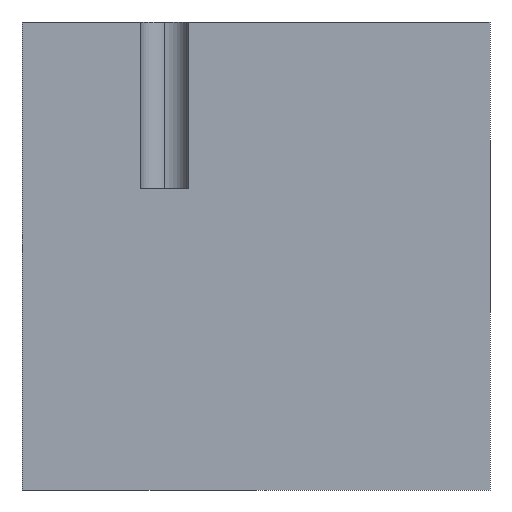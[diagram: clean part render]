
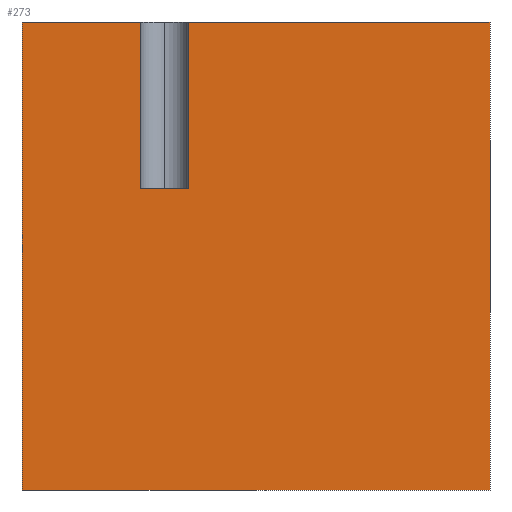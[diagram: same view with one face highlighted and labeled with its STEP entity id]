
A CAD part, left-side view. The second image highlights one B-rep face of the part: STEP entity #273.
In plain terms, the highlighted planar face has unit normal (-1, 0, 0).
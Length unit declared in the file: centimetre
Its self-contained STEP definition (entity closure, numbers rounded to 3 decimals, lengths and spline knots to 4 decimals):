
#14 = DIRECTION ( 'NONE',  ( 0., 0., 1. ) ) ;
#30 = DIRECTION ( 'NONE',  ( 1., 0., 0. ) ) ;
#31 = DIRECTION ( 'NONE',  ( 0., 0., 1. ) ) ;
#32 = DIRECTION ( 'NONE',  ( 0., 0., -1. ) ) ;
#38 = FACE_OUTER_BOUND ( 'NONE', #341, .T. ) ;
#55 = ORIENTED_EDGE ( 'NONE', *, *, #380, .F. ) ;
#57 = VERTEX_POINT ( 'NONE', #155 ) ;
#65 = VECTOR ( 'NONE', #31, 100. ) ;
#78 = CARTESIAN_POINT ( 'NONE',  ( 0., 1000., 1000. ) ) ;
#95 = VERTEX_POINT ( 'NONE', #367 ) ;
#97 = ORIENTED_EDGE ( 'NONE', *, *, #216, .F. ) ;
#101 = VECTOR ( 'NONE', #446, 100. ) ;
#103 = VERTEX_POINT ( 'NONE', #258 ) ;
#108 = VERTEX_POINT ( 'NONE', #215 ) ;
#109 = DIRECTION ( 'NONE',  ( 0., 0., -1. ) ) ;
#119 = LINE ( 'NONE', #355, #505 ) ;
#124 = VECTOR ( 'NONE', #14, 100. ) ;
#127 = DIRECTION ( 'NONE',  ( 0., -1., 0. ) ) ;
#133 = CARTESIAN_POINT ( 'NONE',  ( 0., 746.1739, 643.1808 ) ) ;
#140 = EDGE_CURVE ( 'NONE', #373, #108, #312, .T. ) ;
#149 = VERTEX_POINT ( 'NONE', #425 ) ;
#155 = CARTESIAN_POINT ( 'NONE',  ( 0., 1000., 0. ) ) ;
#156 = EDGE_CURVE ( 'NONE', #108, #149, #282, .T. ) ;
#206 = LINE ( 'NONE', #357, #336 ) ;
#215 = CARTESIAN_POINT ( 'NONE',  ( 0., 643.6475, 1000. ) ) ;
#216 = EDGE_CURVE ( 'NONE', #149, #326, #206, .T. ) ;
#220 = CARTESIAN_POINT ( 'NONE',  ( 0., 1000., 643.1808 ) ) ;
#227 = ORIENTED_EDGE ( 'NONE', *, *, #353, .F. ) ;
#252 = LINE ( 'NONE', #287, #101 ) ;
#258 = CARTESIAN_POINT ( 'NONE',  ( 0., 746.1739, 1000. ) ) ;
#259 = CARTESIAN_POINT ( 'NONE',  ( 0., 643.6475, 643.1808 ) ) ;
#267 = VECTOR ( 'NONE', #290, 100. ) ;
#273 = ADVANCED_FACE ( 'NONE', ( #38 ), #424, .F. ) ;
#282 = LINE ( 'NONE', #440, #427 ) ;
#287 = CARTESIAN_POINT ( 'NONE',  ( 0., 1000., 1000. ) ) ;
#290 = DIRECTION ( 'NONE',  ( 0., -1., 0. ) ) ;
#298 = ORIENTED_EDGE ( 'NONE', *, *, #432, .T. ) ;
#303 = ORIENTED_EDGE ( 'NONE', *, *, #140, .F. ) ;
#312 = LINE ( 'NONE', #403, #65 ) ;
#323 = DIRECTION ( 'NONE',  ( 0., -1., 0. ) ) ;
#326 = VERTEX_POINT ( 'NONE', #398 ) ;
#327 = LINE ( 'NONE', #493, #486 ) ;
#336 = VECTOR ( 'NONE', #109, 100. ) ;
#341 = EDGE_LOOP ( 'NONE', ( #55, #449, #227, #419, #298, #97, #411, #303 ) ) ;
#348 = AXIS2_PLACEMENT_3D ( 'NONE', #437, #30, #32 ) ;
#353 = EDGE_CURVE ( 'NONE', #502, #103, #119, .T. ) ;
#355 = CARTESIAN_POINT ( 'NONE',  ( 0., 1000., 1000. ) ) ;
#357 = CARTESIAN_POINT ( 'NONE',  ( 0., 0., 1000. ) ) ;
#367 = CARTESIAN_POINT ( 'NONE',  ( 0., 746.1739, 643.1808 ) ) ;
#372 = LINE ( 'NONE', #133, #124 ) ;
#373 = VERTEX_POINT ( 'NONE', #259 ) ;
#380 = EDGE_CURVE ( 'NONE', #95, #373, #488, .T. ) ;
#398 = CARTESIAN_POINT ( 'NONE',  ( 0., 0., 0. ) ) ;
#403 = CARTESIAN_POINT ( 'NONE',  ( 0., 643.6475, 643.1808 ) ) ;
#411 = ORIENTED_EDGE ( 'NONE', *, *, #156, .F. ) ;
#419 = ORIENTED_EDGE ( 'NONE', *, *, #447, .T. ) ;
#423 = EDGE_CURVE ( 'NONE', #95, #103, #372, .T. ) ;
#424 = PLANE ( 'NONE',  #348 ) ;
#425 = CARTESIAN_POINT ( 'NONE',  ( 0., 0., 1000. ) ) ;
#427 = VECTOR ( 'NONE', #323, 100. ) ;
#432 = EDGE_CURVE ( 'NONE', #57, #326, #327, .T. ) ;
#437 = CARTESIAN_POINT ( 'NONE',  ( 0., 1000., 1000. ) ) ;
#440 = CARTESIAN_POINT ( 'NONE',  ( 0., 1000., 1000. ) ) ;
#446 = DIRECTION ( 'NONE',  ( 0., 0., -1. ) ) ;
#447 = EDGE_CURVE ( 'NONE', #502, #57, #252, .T. ) ;
#449 = ORIENTED_EDGE ( 'NONE', *, *, #423, .T. ) ;
#486 = VECTOR ( 'NONE', #127, 100. ) ;
#488 = LINE ( 'NONE', #220, #267 ) ;
#493 = CARTESIAN_POINT ( 'NONE',  ( 0., 1000., 0. ) ) ;
#502 = VERTEX_POINT ( 'NONE', #78 ) ;
#505 = VECTOR ( 'NONE', #515, 100. ) ;
#515 = DIRECTION ( 'NONE',  ( 0., -1., 0. ) ) ;
